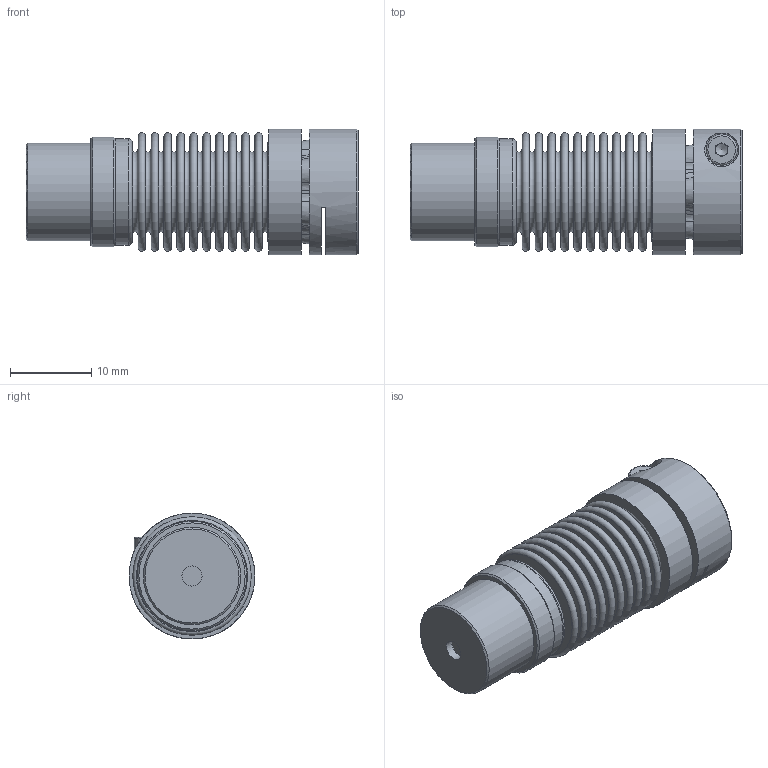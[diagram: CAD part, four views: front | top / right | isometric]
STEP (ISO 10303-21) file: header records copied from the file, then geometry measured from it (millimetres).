
FILE_DESCRIPTION( ( 'KBE1/14 - N7H8 - N14H7 - 98 Sh' ), '1' );
FILE_NAME( 'K:/Konstruktion/Fertigungszeichnungen/Metallbalgkupplung/KB3P/5-10/KB3P-10-34.stp', '14.12.2015', ( 'KBK-Antriebstechnik' ), ( 'KBK-Antriebstechnik' ), 'PSStep 16.0.42', 'Solid Edge St6', ' ' );
FILE_SCHEMA( ( 'AUTOMOTIVE_DESIGN { 1 0 10303 214 1 1 1 1 }' ) );
Length unit declared in the file: millimetre
Products named in the file (7): Assem1; Socket Head Cap Screw_DIN_DIN 912 M2 x 8 --- 8N_5; SN10; Stecknabe KB2P-10; Balgaufnahme KB2P-10_für Step; BL10_Standard_0; ISO EN DIN 4762 M3x12
Assembly tree (6 placements, depth 2):
  Assem1
    Socket Head Cap Screw_DIN_DIN 912 M2 x 8 --- 8N_5
    SN10
    Stecknabe KB2P-10
    Balgaufnahme KB2P-10_für Step
    BL10_Standard_0
    ISO EN DIN 4762 M3x12
Bounding box: 40.9 x 15.5 x 15.5 mm (x, y, z)
Volume: 3730.3 mm3; surface area: 7811.5 mm2
Topology: 6 solids, 6 shells, 221 faces, 443 edges, 286 vertices
Faces by surface type: plane 89, cone 59, torus 51, cylinder 22
Full cylindrical faces by diameter (mm): 1.567 x1, 2 x1, 2.2 x1, 2.5 x1, 2.98 x1, 3 x3, 3.8 x1, 5 x1, 12 x1, 12.9 x3, 13.1 x2, 13.5 x1, 15.5 x2
Entity records: 7459 total; most frequent: CARTESIAN_POINT 1050, DIRECTION 1035, ORIENTED_EDGE 710, AXIS2_PLACEMENT_3D 474, EDGE_LOOP 363, EDGE_CURVE 355, VERTEX_POINT 297, FACE_OUTER_BOUND 291
